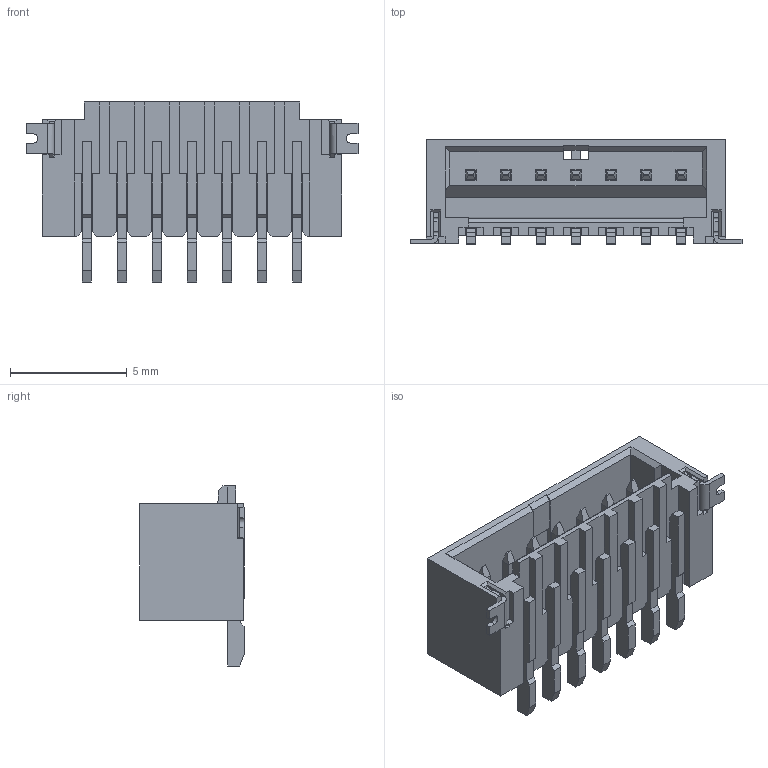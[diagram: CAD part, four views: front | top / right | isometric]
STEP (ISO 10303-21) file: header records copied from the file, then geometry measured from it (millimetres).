
FILE_DESCRIPTION((''),'2;1');
FILE_NAME('50XXX_ASM','2009-11-02T',('12206423'),(''),'PRO/ENGINEER BY PARAMETRIC TECHNOLOGY CORPORATION, 2007450','PRO/ENGINEER BY PARAMETRIC TECHNOLOGY CORPORATION, 2007450','');
FILE_SCHEMA(('CONFIG_CONTROL_DESIGN'));
Length unit declared in the file: millimetre
Products named in the file (1): 50XXX_ASM
Bounding box: 14.2 x 4.45 x 7.7 mm (x, y, z)
Volume: 148.3 mm3; surface area: 686 mm2
Topology: 1 solids, 1 shells, 660 faces, 2078 edges, 1348 vertices
Faces by surface type: plane 600, cylinder 60
Entity records: 22758 total; most frequent: ORIENTED_EDGE 4156, CARTESIAN_POINT 4096, DIRECTION 3514, EDGE_CURVE 2078, VECTOR 1954, LINE 1954, VERTEX_POINT 1348, AXIS2_PLACEMENT_3D 780
